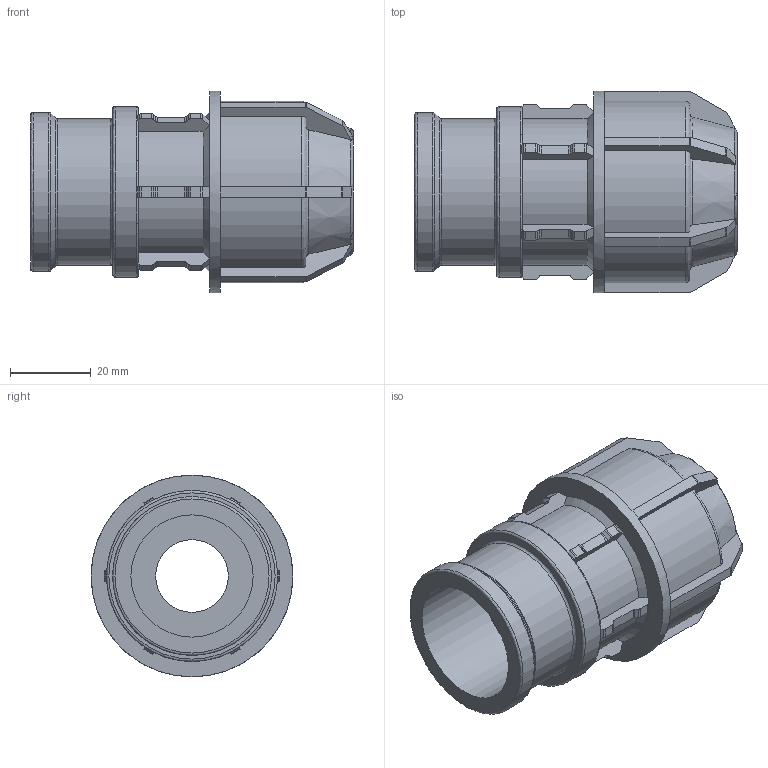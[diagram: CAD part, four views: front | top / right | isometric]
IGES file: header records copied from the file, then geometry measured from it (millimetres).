
Global section: file name: 140300020010.ipt; native system: Autodesk Inventor 2015; preprocessor: unknown; author: KIM; date: 20180409.131005; units: millimetre
Bounding box: 80 x 50 x 50 mm (x, y, z)
Volume: 68234.5 mm3; surface area: 21261.9 mm2
Topology: 1 solids, 1 shells, 261 faces, 739 edges, 477 vertices
Faces by surface type: plane 160, cylinder 52, revolution 36, cone 13
Full cylindrical faces by diameter (mm): 36.349 x1, 39.378 x1, 42.407 x1, 50 x1
